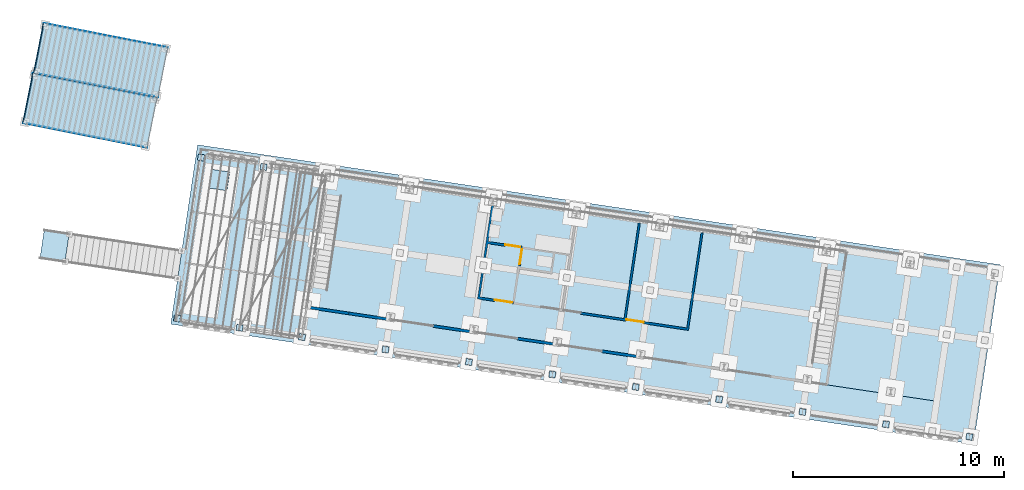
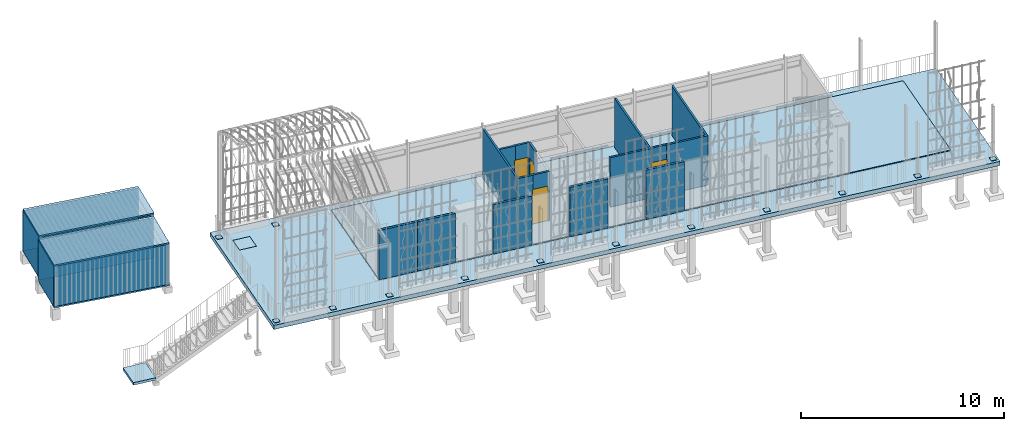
# One storey, part 136 of 143: 20 plates, 8 walls, 7 slabs, 4 doors, 7 openings, 5 elements without a shape of their own.
"""IFC4 building model written with IfcOpenShell, lengths in metres."""

import ifcopenshell
import ifcopenshell.guid

model = None  # the IFC model being written
_history = None  # IfcOwnerHistory: only IFC2X3 demands one
_inside = {}  # id of a spatial element -> (the spatial element, [elements in it])
_under = {}  # id of a project, library or spatial element -> (it, [spatial elements below it])
_declared = {}  # id of a project -> (the project, [libraries it declares])
_typed = {}  # id of a type object -> (the type object, [elements of that type])
_made_of = {}  # id of a material, layer set ... -> (it, [elements and type objects made of it])


def new_model(schema):
    """Start an empty IFC model of exactly this schema.

    Asked for "IFC4X3", IfcOpenShell would pick the latest addendum, in which some entities
    have other attributes; the version numbers below select the first issue.
    IFC2X3 requires an IfcOwnerHistory on every rooted entity: one is made here for all.
    """
    global model, _history
    if schema == "IFC4X3":
        model = ifcopenshell.file(schema_version=(4, 3, 0, 0))
    else:
        model = ifcopenshell.file(schema=schema)
    _inside.clear()
    _under.clear()
    _declared.clear()
    _typed.clear()
    _made_of.clear()
    _history = None
    if model.schema == "IFC2X3":
        org = make("IfcOrganization", Name="unknown")
        user = make(
            "IfcPersonAndOrganization",
            ThePerson=make("IfcPerson", FamilyName="unknown"),
            TheOrganization=org,
        )
        app = make(
            "IfcApplication",
            ApplicationDeveloper=org,
            Version="unknown",
            ApplicationFullName="unknown",
            ApplicationIdentifier="unknown",
        )
        _history = make(
            "IfcOwnerHistory",
            OwningUser=user,
            OwningApplication=app,
            ChangeAction="ADDED",
            CreationDate=0,
        )
    return model


def make(cls, **values):
    """One entity of the class cls with the attributes given. An attribute that is None is left unset."""
    return model.create_entity(
        cls, **{name: value for name, value in values.items() if value is not None}
    )


def rooted(cls, **values):
    """An entity with a GlobalId (a new one), such as an element, a storey or a relation."""
    return make(cls, GlobalId=ifcopenshell.guid.new(), OwnerHistory=_history, **values)


def si_unit(unit_type, name, prefix=None):
    """IfcSIUnit, for example si_unit("LENGTHUNIT", "METRE", prefix="MILLI")."""
    return make("IfcSIUnit", UnitType=unit_type, Prefix=prefix, Name=name)


def assignment(units):
    """IfcUnitAssignment: the units of a project."""
    return None if units is None else make("IfcUnitAssignment", Units=units)


def point(xyz):
    """IfcCartesianPoint."""
    return None if xyz is None else make("IfcCartesianPoint", Coordinates=xyz)


def direction(xyz):
    """IfcDirection."""
    return None if xyz is None else make("IfcDirection", DirectionRatios=xyz)


def frame(location, z_axis=None, x_axis=None):
    """IfcAxis2Placement3D, a coordinate frame: its origin and axes. An axis left out is left unset."""
    return make(
        "IfcAxis2Placement3D",
        Location=point(location),
        Axis=direction(z_axis),
        RefDirection=direction(x_axis),
    )


def origin_with_axes():
    """The frame at (0, 0, 0) with the z axis (0, 0, 1) and the x axis (1, 0, 0) written out."""
    return frame((0.0, 0.0, 0.0), z_axis=(0.0, 0.0, 1.0), x_axis=(1.0, 0.0, 0.0))


def place(relative_to, where):
    """IfcLocalPlacement: puts the frame where relative to a parent placement (None: the world)."""
    return make(
        "IfcLocalPlacement", PlacementRelTo=relative_to, RelativePlacement=where
    )


def context(
    kind, dimensions, precision=None, world=None, true_north=None, identifier=None
):
    """IfcGeometricRepresentationContext, for example the 3D "Model" context."""
    return make(
        "IfcGeometricRepresentationContext",
        ContextIdentifier=identifier,
        ContextType=kind,
        CoordinateSpaceDimension=dimensions,
        Precision=precision,
        WorldCoordinateSystem=world,
        TrueNorth=true_north,
    )


def subcontext(parent, identifier, kind, view, scale=None):
    """IfcGeometricRepresentationSubContext, for example "Body" below "Model"."""
    return make(
        "IfcGeometricRepresentationSubContext",
        ContextIdentifier=identifier,
        ContextType=kind,
        ParentContext=parent,
        TargetScale=scale,
        TargetView=view,
    )


def project(units=None, contexts=None):
    """IfcProject with its units and contexts."""
    return rooted(
        "IfcProject",
        Name="project",
        RepresentationContexts=contexts,
        UnitsInContext=assignment(units),
    )


def spatial(cls, under=None, at=None, **own):
    """A site, building, storey or space (cls), placed at a placement, below another one or the project."""
    s = rooted(cls, ObjectPlacement=at, **own)
    if under is not None:
        _under.setdefault(under.id(), (under, []))[1].append(s)
    return s


def polyline(points):
    """IfcPolyline through the points."""
    return make("IfcPolyline", Points=[point(p) for p in points])


def outline(outer, holes=None, kind="AREA"):
    """IfcArbitraryClosedProfileDef: a profile drawn as a closed curve; with holes, ...WithVoids."""
    if holes is None:
        return make("IfcArbitraryClosedProfileDef", ProfileType=kind, OuterCurve=outer)
    return make(
        "IfcArbitraryProfileDefWithVoids",
        ProfileType=kind,
        OuterCurve=outer,
        InnerCurves=holes,
    )


def extrude(swept, where, along, depth):
    """IfcExtrudedAreaSolid: the profile swept, set in the frame where, extruded along a direction by depth."""
    return make(
        "IfcExtrudedAreaSolid",
        SweptArea=swept,
        Position=where,
        ExtrudedDirection=direction(along),
        Depth=depth,
    )


def shape(context_of_items, identifier, shape_type, items):
    """IfcShapeRepresentation: the items that make up one representation, for example the "Body"."""
    return make(
        "IfcShapeRepresentation",
        ContextOfItems=context_of_items,
        RepresentationIdentifier=identifier,
        RepresentationType=shape_type,
        Items=items,
    )


def material(Name=None, Category=None):
    """IfcMaterial."""
    return make("IfcMaterial", Name=Name, Category=Category)


def layer(
    of_material, thickness, ventilated=None, Name=None, Category=None, Priority=None
):
    """IfcMaterialLayer: one layer of a wall or slab, of a material (None: an air gap)."""
    return make(
        "IfcMaterialLayer",
        Material=of_material,
        LayerThickness=thickness,
        IsVentilated=ventilated,
        Name=Name,
        Category=Category,
        Priority=Priority,
    )


def layer_set(layers, Name=None):
    """IfcMaterialLayerSet."""
    return make("IfcMaterialLayerSet", MaterialLayers=layers, LayerSetName=Name)


def constituent(of_material, Name=None, Category=None, fraction=None):
    """IfcMaterialConstituent: one of the materials an element consists of."""
    return make(
        "IfcMaterialConstituent",
        Name=Name,
        Material=of_material,
        Fraction=fraction,
        Category=Category,
    )


def constituent_set(constituents=None, Name=None):
    """IfcMaterialConstituentSet."""
    return make(
        "IfcMaterialConstituentSet", Name=Name, MaterialConstituents=constituents
    )


def made_of(thing, what):
    """Note that an element or type object is made of a material, layer set ...; save() writes the relation."""
    if what is not None:
        _made_of.setdefault(what.id(), (what, []))[1].append(thing)
    return thing


def element(
    cls,
    number,
    at=None,
    inside=None,
    cuts=None,
    type_object=None,
    material=None,
    context=None,
    identifier="Body",
    shape_type=None,
    held_by="IfcProductDefinitionShape",
    body=None,
    shapes=None,
    **own,
):
    """One element of the class cls, such as IfcWall. Its Tag is "e" and its number.

    at: its placement. inside: the storey or other place that contains it. cuts: it is an
    opening in that element (IfcRelVoidsElement). A single representation is given by context,
    identifier, shape_type and body (its items); several are given by shapes. held_by: the class
    of the entity that holds the representations. save() writes the other relations.
    """
    e = rooted(cls, Tag="e%d" % number, ObjectPlacement=at, **own)
    if body is not None:
        shapes = [shape(context, identifier, shape_type, body)]
    if shapes is not None:
        e.Representation = make(held_by, Representations=shapes)
    if inside is not None:
        _inside.setdefault(inside.id(), (inside, []))[1].append(e)
    if cuts is not None:
        rooted(
            "IfcRelVoidsElement", RelatingBuildingElement=cuts, RelatedOpeningElement=e
        )
    if type_object is not None:
        _typed.setdefault(type_object.id(), (type_object, []))[1].append(e)
    return made_of(e, material)


def fill(opening, filler):
    """IfcRelFillsElement: the door or window that sits in an opening."""
    return rooted(
        "IfcRelFillsElement",
        RelatingOpeningElement=opening,
        RelatedBuildingElement=filler,
    )


def aggregate(whole, parts):
    """IfcRelAggregates: a whole, such as a stair, and the parts it consists of."""
    return rooted("IfcRelAggregates", RelatingObject=whole, RelatedObjects=parts)


def save(model, path):
    """Write the relations noted so far, then the file.

    IfcRelAggregates (storeys below a building ...), IfcRelContainedInSpatialStructure (elements
    in a storey), IfcRelDefinesByType, IfcRelAssociatesMaterial and IfcRelDeclares: one each for
    every whole, place, type object, material and project.
    """
    for whole, parts in _under.values():
        aggregate(whole, parts)
    for where, things in _inside.values():
        rooted(
            "IfcRelContainedInSpatialStructure",
            RelatedElements=things,
            RelatingStructure=where,
        )
    for kind, things in _typed.values():
        rooted("IfcRelDefinesByType", RelatedObjects=things, RelatingType=kind)
    for what, things in _made_of.values():
        rooted("IfcRelAssociatesMaterial", RelatedObjects=things, RelatingMaterial=what)
    for by, libraries in _declared.values():
        rooted("IfcRelDeclares", RelatingContext=by, RelatedDefinitions=libraries)
    model.write(path)


model = new_model("IFC4")

# Units and contexts
model_context = context("Model", 3, precision=1e-05, world=origin_with_axes(), true_north=direction((0.0, 1.0)))
body_context = subcontext(model_context, "Body", "Model", "MODEL_VIEW")
ifc_project = project(units=[si_unit("VOLUMEUNIT", "CUBIC_METRE"), si_unit("LENGTHUNIT", "METRE"), si_unit("AREAUNIT", "SQUARE_METRE")], contexts=[model_context])

# Site, building, storey
site_placement = place(None, origin_with_axes())
site = spatial("IfcSite", under=ifc_project, at=site_placement, Name="Lares · Rua das Mercês · artigo 4771")
building_placement = place(site_placement, frame((15.0, 9.7, 15.8), z_axis=(0.0, 0.0, 1.0), x_axis=(0.989015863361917, -0.147809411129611, 0.0)))
building = spatial("IfcBuilding", under=site, at=building_placement, Name="Casa Sobreposta")
storey_placement = place(building_placement, origin_with_axes())
storey = spatial("IfcBuildingStorey", under=building, at=storey_placement, Name="00 · Habitação e estacionamento", Elevation=15.8)

# Assembly, slabs, opening, plate
assembly_1_placement = place(storey_placement, origin_with_axes())
assembly_1 = element("IfcElementAssembly", 1, at=assembly_1_placement, inside=storey, Name="Pódio · terraço, casa térrea e cisterna", ObjectType="CISTERN_PODIUM", PredefinedType="USERDEFINED")
ifc_material_1 = material(Name="Betão armado / Stahlbeton", Category="concrete")
slab_1_placement = place(assembly_1_placement, frame((0.0, 0.0, -0.25), z_axis=(0.0, 0.0, 1.0), x_axis=(1.0, 0.0, 0.0)))
slab_1 = element("IfcSlab", 2, at=slab_1_placement, material=ifc_material_1, Name="Pódio · laje da casa 250 mm", PredefinedType="FLOOR", context=body_context, shape_type="SweptSolid", body=[
    extrude(outline(polyline([(30.32, 0.0), (30.32, 6.4), (0.0, 6.4), (0.0, 0.0), (30.32, 0.0)])), origin_with_axes(), (0.0, 0.0, 1.0), 0.25),
])
slab_2_placement = place(assembly_1_placement, frame((0.0, 0.0, -0.29), z_axis=(0.0, 0.0, 1.0), x_axis=(1.0, 0.0, 0.0)))
slab_2 = element("IfcSlab", 3, at=slab_2_placement, material=ifc_material_1, Name="Pódio · terraço e faixa de proteção sul", PredefinedType="FLOOR", context=body_context, shape_type="SweptSolid", body=[
    extrude(outline(polyline([(-6.25, -1.75), (-6.25, 6.85), (32.25, 6.85), (32.25, -1.75), (-6.25, -1.75)]), holes=[polyline([(30.32, 6.4), (0.0, 6.4), (0.0, 0.0), (30.32, 0.0), (30.32, 6.4)])]), origin_with_axes(), (0.0, 0.0, 1.0), 0.25),
])
opening_1_placement = place(slab_2_placement, frame((0.0, 0.0, -0.06), z_axis=(0.0, 0.0, 1.0), x_axis=(1.0, 0.0, 0.0)))
element("IfcOpeningElement", 4, at=opening_1_placement, cuts=slab_2, Name="Cisterna · abertura de inspeção", PredefinedType="OPENING", context=body_context, shape_type="SweptSolid", body=[
    extrude(outline(polyline([(-4.55, 4.9), (-4.55, 5.8), (-5.45, 5.8), (-5.45, 4.9), (-4.55, 4.9)])), origin_with_axes(), (0.0, 0.0, 1.0), 0.4),
])
ifc_material_2 = material(Name="Aço galvanizado / Stahl verzinkt", Category="steel")
plate_1_placement = place(assembly_1_placement, frame((0.0, 0.0, -0.085), z_axis=(0.0, 0.0, 1.0), x_axis=(1.0, 0.0, 0.0)))
plate_1 = element("IfcPlate", 5, at=plate_1_placement, material=ifc_material_2, Name="Cisterna · tampa estanque de inspeção", PredefinedType="SHEET", context=body_context, shape_type="SweptSolid", body=[
    extrude(outline(polyline([(-4.55, 4.9), (-4.55, 5.8), (-5.45, 5.8), (-5.45, 4.9), (-4.55, 4.9)])), origin_with_axes(), (0.0, 0.0, 1.0), 0.045),
])
aggregate(assembly_1, [slab_1, slab_2, plate_1])

# Stair, slab
stair_placement = place(storey_placement, origin_with_axes())
stair = element("IfcStair", 6, at=stair_placement, inside=storey, Name="Jardim · escada pela fachada poente", PredefinedType="STRAIGHT_RUN_STAIR")
slab_3_placement = place(stair_placement, frame((0.0, 0.0, -3.35), z_axis=(0.0, 0.0, 1.0), x_axis=(1.0, 0.0, 0.0)))
slab_3 = element("IfcSlab", 7, at=slab_3_placement, material=ifc_material_1, Name="Jardim · patamar poente", PredefinedType="LANDING", context=body_context, shape_type="SweptSolid", body=[
    extrude(outline(polyline([(-11.65, 0.4), (-11.65, 1.8), (-12.85, 1.8), (-12.85, 0.4), (-11.65, 0.4)])), origin_with_axes(), (0.0, 0.0, 1.0), 0.15),
])
aggregate(stair, [slab_3])

# Assembly, plates
assembly_2_placement = place(storey_placement, origin_with_axes())
assembly_2 = element("IfcElementAssembly", 8, at=assembly_2_placement, inside=storey, Name="Pérgola · prolongamento da estufa 6 m", ObjectType="PERGOLA_GREENHOUSE_EXTENSION", PredefinedType="USERDEFINED")
plate_2_placement = place(assembly_2_placement, frame((0.0, 0.0, -0.04), z_axis=(0.0, 0.0, 1.0), x_axis=(1.0, 0.0, 0.0)))
plate_2 = element("IfcPlate", 9, at=plate_2_placement, material=ifc_material_2, Name="Pérgola · chapa de ancoragem", PredefinedType="SHEET", context=body_context, shape_type="SweptSolid", body=[
    extrude(outline(polyline([(-5.85, -1.59), (-5.85, -1.29), (-6.15, -1.29), (-6.15, -1.59), (-5.85, -1.59)])), origin_with_axes(), (0.0, 0.0, 1.0), 0.025),
])
plate_3_placement = place(assembly_2_placement, frame((0.0, 0.0, -0.04), z_axis=(0.0, 0.0, 1.0), x_axis=(1.0, 0.0, 0.0)))
plate_3 = element("IfcPlate", 10, at=plate_3_placement, material=ifc_material_2, Name="Pérgola · chapa de ancoragem", PredefinedType="SHEET", context=body_context, shape_type="SweptSolid", body=[
    extrude(outline(polyline([(-5.85, 6.13), (-5.85, 6.43), (-6.15, 6.43), (-6.15, 6.13), (-5.85, 6.13)])), origin_with_axes(), (0.0, 0.0, 1.0), 0.025),
])
plate_4_placement = place(assembly_2_placement, frame((0.0, 0.0, -0.04), z_axis=(0.0, 0.0, 1.0), x_axis=(1.0, 0.0, 0.0)))
plate_4 = element("IfcPlate", 11, at=plate_4_placement, material=ifc_material_2, Name="Pérgola · chapa de ancoragem", PredefinedType="SHEET", context=body_context, shape_type="SweptSolid", body=[
    extrude(outline(polyline([(-2.85, -1.59), (-2.85, -1.29), (-3.15, -1.29), (-3.15, -1.59), (-2.85, -1.59)])), origin_with_axes(), (0.0, 0.0, 1.0), 0.025),
])
plate_5_placement = place(assembly_2_placement, frame((0.0, 0.0, -0.04), z_axis=(0.0, 0.0, 1.0), x_axis=(1.0, 0.0, 0.0)))
plate_5 = element("IfcPlate", 12, at=plate_5_placement, material=ifc_material_2, Name="Pérgola · chapa de ancoragem", PredefinedType="SHEET", context=body_context, shape_type="SweptSolid", body=[
    extrude(outline(polyline([(-2.85, 6.13), (-2.85, 6.43), (-3.15, 6.43), (-3.15, 6.13), (-2.85, 6.13)])), origin_with_axes(), (0.0, 0.0, 1.0), 0.025),
])
aggregate(assembly_2, [plate_2, plate_3, plate_4, plate_5])

# Plates
plate_6_placement = place(storey_placement, frame((0.0, 0.0, -0.04), z_axis=(0.0, 0.0, 1.0), x_axis=(1.0, 0.0, 0.0)))
element("IfcPlate", 13, at=plate_6_placement, inside=storey, material=ifc_material_2, Name="Projeção estufa · chapa de ancoragem", PredefinedType="SHEET", context=body_context, shape_type="SweptSolid", body=[
    extrude(outline(polyline([(0.15, -1.59), (0.15, -1.29), (-0.15, -1.29), (-0.15, -1.59), (0.15, -1.59)])), origin_with_axes(), (0.0, 0.0, 1.0), 0.025),
])
plate_7_placement = place(storey_placement, frame((0.0, 0.0, -0.04), z_axis=(0.0, 0.0, 1.0), x_axis=(1.0, 0.0, 0.0)))
element("IfcPlate", 14, at=plate_7_placement, inside=storey, material=ifc_material_2, Name="Projeção estufa · chapa de ancoragem", PredefinedType="SHEET", context=body_context, shape_type="SweptSolid", body=[
    extrude(outline(polyline([(4.15, -1.59), (4.15, -1.29), (3.85, -1.29), (3.85, -1.59), (4.15, -1.59)])), origin_with_axes(), (0.0, 0.0, 1.0), 0.025),
])
plate_8_placement = place(storey_placement, frame((0.0, 0.0, -0.04), z_axis=(0.0, 0.0, 1.0), x_axis=(1.0, 0.0, 0.0)))
element("IfcPlate", 15, at=plate_8_placement, inside=storey, material=ifc_material_2, Name="Projeção estufa · chapa de ancoragem", PredefinedType="SHEET", context=body_context, shape_type="SweptSolid", body=[
    extrude(outline(polyline([(8.15, -1.59), (8.15, -1.29), (7.85, -1.29), (7.85, -1.59), (8.15, -1.59)])), origin_with_axes(), (0.0, 0.0, 1.0), 0.025),
])
plate_9_placement = place(storey_placement, frame((0.0, 0.0, -0.04), z_axis=(0.0, 0.0, 1.0), x_axis=(1.0, 0.0, 0.0)))
element("IfcPlate", 16, at=plate_9_placement, inside=storey, material=ifc_material_2, Name="Projeção estufa · chapa de ancoragem", PredefinedType="SHEET", context=body_context, shape_type="SweptSolid", body=[
    extrude(outline(polyline([(12.15, -1.59), (12.15, -1.29), (11.85, -1.29), (11.85, -1.59), (12.15, -1.59)])), origin_with_axes(), (0.0, 0.0, 1.0), 0.025),
])
plate_10_placement = place(storey_placement, frame((0.0, 0.0, -0.04), z_axis=(0.0, 0.0, 1.0), x_axis=(1.0, 0.0, 0.0)))
element("IfcPlate", 17, at=plate_10_placement, inside=storey, material=ifc_material_2, Name="Projeção estufa · chapa de ancoragem", PredefinedType="SHEET", context=body_context, shape_type="SweptSolid", body=[
    extrude(outline(polyline([(16.15, -1.59), (16.15, -1.29), (15.85, -1.29), (15.85, -1.59), (16.15, -1.59)])), origin_with_axes(), (0.0, 0.0, 1.0), 0.025),
])
plate_11_placement = place(storey_placement, frame((0.0, 0.0, -0.04), z_axis=(0.0, 0.0, 1.0), x_axis=(1.0, 0.0, 0.0)))
element("IfcPlate", 18, at=plate_11_placement, inside=storey, material=ifc_material_2, Name="Projeção estufa · chapa de ancoragem", PredefinedType="SHEET", context=body_context, shape_type="SweptSolid", body=[
    extrude(outline(polyline([(20.15, -1.59), (20.15, -1.29), (19.85, -1.29), (19.85, -1.59), (20.15, -1.59)])), origin_with_axes(), (0.0, 0.0, 1.0), 0.025),
])
plate_12_placement = place(storey_placement, frame((0.0, 0.0, -0.04), z_axis=(0.0, 0.0, 1.0), x_axis=(1.0, 0.0, 0.0)))
element("IfcPlate", 19, at=plate_12_placement, inside=storey, material=ifc_material_2, Name="Projeção estufa · chapa de ancoragem", PredefinedType="SHEET", context=body_context, shape_type="SweptSolid", body=[
    extrude(outline(polyline([(24.15, -1.59), (24.15, -1.29), (23.85, -1.29), (23.85, -1.59), (24.15, -1.59)])), origin_with_axes(), (0.0, 0.0, 1.0), 0.025),
])
plate_13_placement = place(storey_placement, frame((0.0, 0.0, -0.04), z_axis=(0.0, 0.0, 1.0), x_axis=(1.0, 0.0, 0.0)))
element("IfcPlate", 20, at=plate_13_placement, inside=storey, material=ifc_material_2, Name="Projeção estufa · chapa de ancoragem", PredefinedType="SHEET", context=body_context, shape_type="SweptSolid", body=[
    extrude(outline(polyline([(28.15, -1.59), (28.15, -1.29), (27.85, -1.29), (27.85, -1.59), (28.15, -1.59)])), origin_with_axes(), (0.0, 0.0, 1.0), 0.025),
])
plate_14_placement = place(storey_placement, frame((0.0, 0.0, -0.04), z_axis=(0.0, 0.0, 1.0), x_axis=(1.0, 0.0, 0.0)))
element("IfcPlate", 21, at=plate_14_placement, inside=storey, material=ifc_material_2, Name="Projeção estufa · chapa de ancoragem", PredefinedType="SHEET", context=body_context, shape_type="SweptSolid", body=[
    extrude(outline(polyline([(32.15, -1.59), (32.15, -1.29), (31.85, -1.29), (31.85, -1.59), (32.15, -1.59)])), origin_with_axes(), (0.0, 0.0, 1.0), 0.025),
])

# Assembly, slabs, plates
assembly_3_placement = place(storey_placement, frame((-14.4335953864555, 9.04888612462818, 0.0), z_axis=(0.0, 0.0, 1.0), x_axis=(0.999032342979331, -0.0439815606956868, 0.0)))
assembly_3 = element("IfcElementAssembly", 22, at=assembly_3_placement, inside=storey, Name="Contentor existente 1 · 6 m", ObjectType="EXISTING_SHIPPING_CONTAINER", PredefinedType="USERDEFINED")
ifc_material_3 = material(Name="Contentor · pintura 1", Category="steel")
slab_4_placement = place(assembly_3_placement, frame((0.0, 0.0, -2.16314181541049), z_axis=(0.0, 0.0, 1.0), x_axis=(1.0, 0.0, 0.0)))
slab_4 = element("IfcSlab", 23, at=slab_4_placement, material=ifc_material_3, Name="Contentor · piso ou teto", PredefinedType="FLOOR", context=body_context, shape_type="SweptSolid", body=[
    extrude(outline(polyline([(6.0, 0.0), (6.0, 2.44), (0.0, 2.44), (0.0, 0.0), (6.0, 0.0)])), origin_with_axes(), (0.0, 0.0, 1.0), 0.08),
])
slab_5_placement = place(assembly_3_placement, frame((0.0, 0.0, 0.346858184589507), z_axis=(0.0, 0.0, 1.0), x_axis=(1.0, 0.0, 0.0)))
slab_5 = element("IfcSlab", 24, at=slab_5_placement, material=ifc_material_3, Name="Contentor · piso ou teto", PredefinedType="FLOOR", context=body_context, shape_type="SweptSolid", body=[
    extrude(outline(polyline([(6.0, 0.0), (6.0, 2.44), (0.0, 2.44), (0.0, 0.0), (6.0, 0.0)])), origin_with_axes(), (0.0, 0.0, 1.0), 0.08),
])
plate_15_placement = place(assembly_3_placement, frame((0.0, 0.0, -2.08314181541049), z_axis=(0.0, 0.0, 1.0), x_axis=(1.0, 0.0, 0.0)))
plate_15 = element("IfcPlate", 25, at=plate_15_placement, material=ifc_material_3, Name="Contentor · chapa lateral", context=body_context, shape_type="SweptSolid", body=[
    extrude(outline(polyline([(6.0, 0.0325), (6.0, 0.0075), (0.0, 0.0075), (0.0, 0.0325), (6.0, 0.0325)])), origin_with_axes(), (0.0, 0.0, 1.0), 2.43),
])
plate_16_placement = place(assembly_3_placement, frame((0.0, 0.0, -2.08314181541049), z_axis=(0.0, 0.0, 1.0), x_axis=(1.0, 0.0, 0.0)))
plate_16 = element("IfcPlate", 26, at=plate_16_placement, material=ifc_material_3, Name="Contentor · chapa lateral", context=body_context, shape_type="SweptSolid", body=[
    extrude(outline(polyline([(6.0, 2.4325), (6.0, 2.4075), (0.0, 2.4075), (0.0, 2.4325), (6.0, 2.4325)])), origin_with_axes(), (0.0, 0.0, 1.0), 2.43),
])
plate_17_placement = place(assembly_3_placement, frame((0.0, 0.0, -2.08314181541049), z_axis=(0.0, 0.0, 1.0), x_axis=(1.0, 0.0, 0.0)))
plate_17 = element("IfcPlate", 27, at=plate_17_placement, material=ifc_material_3, Name="Contentor · chapa de fundo", context=body_context, shape_type="SweptSolid", body=[
    extrude(outline(polyline([(-0.025, 2.44), (0.025, 2.44), (0.025, 0.0), (-0.025, 0.0), (-0.025, 2.44)])), origin_with_axes(), (0.0, 0.0, 1.0), 2.43),
])
aggregate(assembly_3, [slab_4, slab_5, plate_15, plate_16, plate_17])

assembly_4_placement = place(storey_placement, frame((-14.5932944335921, 6.63122214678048, 0.0), z_axis=(0.0, 0.0, 1.0), x_axis=(0.998832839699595, -0.0483007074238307, 0.0)))
assembly_4 = element("IfcElementAssembly", 28, at=assembly_4_placement, inside=storey, Name="Contentor existente 2 · 6 m", ObjectType="EXISTING_SHIPPING_CONTAINER", PredefinedType="USERDEFINED")
ifc_material_4 = material(Name="Contentor · pintura 2", Category="steel")
slab_6_placement = place(assembly_4_placement, frame((0.0, 0.0, -2.31875169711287), z_axis=(0.0, 0.0, 1.0), x_axis=(1.0, 0.0, 0.0)))
slab_6 = element("IfcSlab", 29, at=slab_6_placement, material=ifc_material_4, Name="Contentor · piso ou teto", PredefinedType="FLOOR", context=body_context, shape_type="SweptSolid", body=[
    extrude(outline(polyline([(6.0, 0.0), (6.0, 2.44), (0.0, 2.44), (0.0, 0.0), (6.0, 0.0)])), origin_with_axes(), (0.0, 0.0, 1.0), 0.08),
])
slab_7_placement = place(assembly_4_placement, frame((0.0, 0.0, 0.191248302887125), z_axis=(0.0, 0.0, 1.0), x_axis=(1.0, 0.0, 0.0)))
slab_7 = element("IfcSlab", 30, at=slab_7_placement, material=ifc_material_4, Name="Contentor · piso ou teto", PredefinedType="FLOOR", context=body_context, shape_type="SweptSolid", body=[
    extrude(outline(polyline([(6.0, 0.0), (6.0, 2.44), (0.0, 2.44), (0.0, 0.0), (6.0, 0.0)])), origin_with_axes(), (0.0, 0.0, 1.0), 0.08),
])
plate_18_placement = place(assembly_4_placement, frame((0.0, 0.0, -2.23875169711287), z_axis=(0.0, 0.0, 1.0), x_axis=(1.0, 0.0, 0.0)))
plate_18 = element("IfcPlate", 31, at=plate_18_placement, material=ifc_material_4, Name="Contentor · chapa lateral", context=body_context, shape_type="SweptSolid", body=[
    extrude(outline(polyline([(6.0, 0.0325), (6.0, 0.0075), (0.0, 0.0075), (0.0, 0.0325), (6.0, 0.0325)])), origin_with_axes(), (0.0, 0.0, 1.0), 2.43),
])
plate_19_placement = place(assembly_4_placement, frame((0.0, 0.0, -2.23875169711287), z_axis=(0.0, 0.0, 1.0), x_axis=(1.0, 0.0, 0.0)))
plate_19 = element("IfcPlate", 32, at=plate_19_placement, material=ifc_material_4, Name="Contentor · chapa lateral", context=body_context, shape_type="SweptSolid", body=[
    extrude(outline(polyline([(6.0, 2.4325), (6.0, 2.4075), (0.0, 2.4075), (0.0, 2.4325), (6.0, 2.4325)])), origin_with_axes(), (0.0, 0.0, 1.0), 2.43),
])
plate_20_placement = place(assembly_4_placement, frame((0.0, 0.0, -2.23875169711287), z_axis=(0.0, 0.0, 1.0), x_axis=(1.0, 0.0, 0.0)))
plate_20 = element("IfcPlate", 33, at=plate_20_placement, material=ifc_material_4, Name="Contentor · chapa de fundo", context=body_context, shape_type="SweptSolid", body=[
    extrude(outline(polyline([(-0.025, 2.44), (0.025, 2.44), (0.025, 0.0), (-0.025, 0.0), (-0.025, 2.44)])), origin_with_axes(), (0.0, 0.0, 1.0), 2.43),
])
aggregate(assembly_4, [slab_6, slab_7, plate_18, plate_19, plate_20])

# Wall, openings, doors
ifc_material_5 = material(Name="OSB", Category="wood")
ifc_constituent_1 = constituent(ifc_material_5, Name="osb")
ifc_material_6 = material(Name="Lã mineral / Mineralwolle 2", Category="mineral wool")
ifc_constituent_2 = constituent(ifc_material_6, Name="wool")
ifc_constituent_set_1 = constituent_set(constituents=[ifc_constituent_1, ifc_constituent_2], Name="OSB22 / lã mineral / OSB22")
wall_1_placement = place(storey_placement, origin_with_axes())
wall_1 = element("IfcWall", 34, at=wall_1_placement, inside=storey, material=ifc_constituent_set_1, Name="Divisória 1 · OSB 22 mm nas duas faces", context=body_context, shape_type="SweptSolid", body=[
    extrude(outline(polyline([(8.05999999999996, 6.27299999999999), (8.05999999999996, 4.35299999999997), (8.80454037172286, 4.35299999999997), (8.80454322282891, 4.37255471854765), (9.67462900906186, 4.37242785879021), (9.67461809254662, 4.29755537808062), (9.74955631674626, 4.29756574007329), (9.74967661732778, 3.42754853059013), (9.63967661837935, 3.4275333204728), (9.63956117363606, 4.26243297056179), (8.90999999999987, 4.26253934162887), (8.90999999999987, 4.24299999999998), (8.05999999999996, 4.24299999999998), (8.05999999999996, 1.68999999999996), (8.70456930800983, 1.68999999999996), (8.70457262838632, 1.71008556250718), (9.6746647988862, 1.70992519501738), (9.67464661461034, 1.59992519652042), (8.80999999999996, 1.60006813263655), (8.80999999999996, 1.57999999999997), (7.96000000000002, 1.57999999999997), (7.96000000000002, 6.27299999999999), (8.05999999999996, 6.27299999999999)]), holes=[polyline([(7.98200000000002, 1.60199999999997), (8.78799999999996, 1.60199999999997), (8.78799999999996, 1.62207176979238), (9.65265025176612, 1.62192883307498), (9.65266116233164, 1.68792883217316), (8.72656899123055, 1.68808192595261), (8.72656567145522, 1.66799999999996), (8.03799999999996, 1.66799999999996), (8.03799999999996, 4.26499999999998), (8.88799999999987, 4.26499999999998), (8.88799999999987, 4.28454254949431), (9.65261617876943, 4.28443106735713), (9.65262580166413, 4.35043106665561), (8.8265400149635, 4.35055151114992), (8.82653716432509, 4.33099999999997), (8.03799999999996, 4.33099999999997), (8.03799999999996, 6.25099999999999), (7.98200000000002, 6.25099999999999), (7.98200000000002, 1.60199999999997)]), polyline([(9.66167357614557, 3.44953636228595), (9.72767357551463, 3.44954548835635), (9.72755935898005, 4.27556269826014), (9.661559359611, 4.27555357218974), (9.66167357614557, 3.44953636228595)])]), origin_with_axes(), (0.0, 0.0, 1.0), 2.968),
    extrude(outline(polyline([(7.98200000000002, 6.25099999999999), (8.03799999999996, 6.25099999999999), (8.03799999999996, 4.33099999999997), (8.82653716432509, 4.33099999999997), (8.8265400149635, 4.35055151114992), (9.65262580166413, 4.35043106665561), (9.65261617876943, 4.28443106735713), (8.88799999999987, 4.28454254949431), (8.88799999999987, 4.26499999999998), (8.03799999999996, 4.26499999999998), (8.03799999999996, 1.66799999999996), (8.72656567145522, 1.66799999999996), (8.72656899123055, 1.68808192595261), (9.65266116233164, 1.68792883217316), (9.65265025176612, 1.62192883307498), (8.78799999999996, 1.62207176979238), (8.78799999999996, 1.60199999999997), (7.98200000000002, 1.60199999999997), (7.98200000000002, 6.25099999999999)])), origin_with_axes(), (0.0, 0.0, 1.0), 2.968),
    extrude(outline(polyline([(9.661559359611, 4.27555357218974), (9.72755935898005, 4.27556269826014), (9.72767357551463, 3.44954548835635), (9.66167357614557, 3.44953636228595), (9.661559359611, 4.27555357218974)])), origin_with_axes(), (0.0, 0.0, 1.0), 2.968),
])
opening_2_placement = place(wall_1_placement, origin_with_axes())
opening_2 = element("IfcOpeningElement", 35, at=opening_2_placement, cuts=wall_1, PredefinedType="OPENING", context=body_context, shape_type="SweptSolid", body=[
    extrude(outline(polyline([(8.87451187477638, 4.15754451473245), (8.87455853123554, 4.47754451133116), (9.60464431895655, 4.4774380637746), (9.60459766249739, 4.15743806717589), (8.87451187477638, 4.15754451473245)])), origin_with_axes(), (0.0, 0.0, 1.0), 2.1),
])
opening_3_placement = place(wall_1_placement, origin_with_axes())
opening_3 = element("IfcOpeningElement", 36, at=opening_3_placement, cuts=wall_1, PredefinedType="OPENING", context=body_context, shape_type="SweptSolid", body=[
    extrude(outline(polyline([(8.77453708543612, 1.49507399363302), (8.77458998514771, 1.81507398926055), (9.60468215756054, 1.81493676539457), (9.60462925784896, 1.49493676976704), (8.77453708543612, 1.49507399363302)])), origin_with_axes(), (0.0, 0.0, 1.0), 2.1),
])
opening_4_placement = place(wall_1_placement, origin_with_axes())
opening_4 = element("IfcOpeningElement", 37, at=opening_4_placement, cuts=wall_1, PredefinedType="OPENING", context=body_context, shape_type="SweptSolid", body=[
    extrude(outline(polyline([(9.85466693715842, 3.49756304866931), (9.53466694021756, 3.49751880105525), (9.5345659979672, 4.22753601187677), (9.85456599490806, 4.22758025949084), (9.85466693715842, 3.49756304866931)])), origin_with_axes(), (0.0, 0.0, 1.0), 2.1),
])
door_1_placement = place(storey_placement, origin_with_axes())
door_1 = element("IfcDoor", 38, at=door_1_placement, inside=storey, material=ifc_material_5, Name="Porta interior 3", OperationType="SINGLE_SWING_LEFT", OverallHeight=2.1, OverallWidth=0.730085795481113, PredefinedType="DOOR", context=body_context, shape_type="SweptSolid", body=[
    extrude(outline(polyline([(8.87453265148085, 4.30004451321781), (8.87453775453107, 4.3350445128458), (9.60462354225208, 4.33493806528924), (9.60461843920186, 4.29993806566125), (8.87453265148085, 4.30004451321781)])), origin_with_axes(), (0.0, 0.0, 1.0), 2.1),
])
fill(opening_2, door_1)
door_2_placement = place(storey_placement, origin_with_axes())
door_2 = element("IfcDoor", 39, at=door_2_placement, inside=storey, material=ifc_material_5, Name="Porta interior 4", OperationType="SINGLE_SWING_LEFT", OverallHeight=2.1, OverallWidth=0.830092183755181, PredefinedType="DOOR", context=body_context, shape_type="SweptSolid", body=[
    extrude(outline(polyline([(8.77456064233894, 1.6375739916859), (8.7745664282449, 1.67257399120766), (9.60465860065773, 1.67243676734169), (9.60465281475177, 1.63743676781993), (8.77456064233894, 1.6375739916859)])), origin_with_axes(), (0.0, 0.0, 1.0), 2.1),
])
fill(opening_3, door_2)
door_3_placement = place(storey_placement, origin_with_axes())
door_3 = element("IfcDoor", 40, at=door_3_placement, inside=storey, material=ifc_material_5, Name="Porta interior 6", OperationType="SINGLE_SWING_LEFT", OverallHeight=2.1, OverallWidth=0.730017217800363, PredefinedType="DOOR", context=body_context, shape_type="SweptSolid", body=[
    extrude(outline(polyline([(9.71216693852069, 3.49754334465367), (9.67716693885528, 3.49753850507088), (9.67706599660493, 4.22755571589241), (9.71206599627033, 4.2275605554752), (9.71216693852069, 3.49754334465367)])), origin_with_axes(), (0.0, 0.0, 1.0), 2.1),
])
fill(opening_4, door_3)

# Wall, openings, door
ifc_constituent_3 = constituent(ifc_material_5, Name="osb")
ifc_constituent_4 = constituent(ifc_material_6, Name="wool")
ifc_constituent_set_2 = constituent_set(constituents=[ifc_constituent_3, ifc_constituent_4], Name="OSB22 / lã mineral / OSB22")
wall_2_placement = place(storey_placement, origin_with_axes())
wall_2 = element("IfcWall", 41, at=wall_2_placement, inside=storey, material=ifc_constituent_set_2, Name="Divisória 3 · OSB 22 mm nas duas faces", context=body_context, shape_type="SweptSolid", body=[
    extrude(outline(polyline([(15.07, 6.27299999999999), (15.07, 1.70993390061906), (15.9846265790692, 1.71008560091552), (15.9846448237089, 1.60008560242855), (15.1199999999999, 1.59994219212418), (15.1199999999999, 1.57999999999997), (12.8699999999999, 1.57999999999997), (12.8699999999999, 1.68999999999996), (14.97, 1.68999999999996), (14.97, 6.27299999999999), (15.07, 6.27299999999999)]), holes=[polyline([(14.992, 1.66799999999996), (12.8919999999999, 1.66799999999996), (12.8919999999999, 1.60199999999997), (15.0979999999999, 1.60199999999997), (15.0979999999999, 1.6219385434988), (15.9626411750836, 1.62208195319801), (15.9626302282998, 1.68808195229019), (15.048, 1.68793025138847), (15.048, 6.25099999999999), (14.992, 6.25099999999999), (14.992, 1.66799999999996)])]), origin_with_axes(), (0.0, 0.0, 1.0), 2.968),
    extrude(outline(polyline([(14.992, 6.25099999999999), (15.048, 6.25099999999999), (15.048, 1.68793025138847), (15.9626302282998, 1.68808195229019), (15.9626411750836, 1.62208195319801), (15.0979999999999, 1.6219385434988), (15.0979999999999, 1.60199999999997), (12.8919999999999, 1.60199999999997), (12.8919999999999, 1.66799999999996), (14.992, 1.66799999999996), (14.992, 6.25099999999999)])), origin_with_axes(), (0.0, 0.0, 1.0), 2.968),
])
opening_5_placement = place(wall_2_placement, origin_with_axes())
opening_5 = element("IfcOpeningElement", 42, at=opening_5_placement, cuts=wall_2, PredefinedType="OPENING", context=body_context, shape_type="SweptSolid", body=[
    extrude(outline(polyline([(15.9146091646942, 1.81507398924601), (15.9146622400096, 1.49507399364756), (15.0845696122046, 1.49493631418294), (15.0845165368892, 1.8149363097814), (15.9146091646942, 1.81507398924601)])), origin_with_axes(), (0.0, 0.0, 1.0), 2.1),
])
opening_6_placement = place(wall_2_placement, origin_with_axes())
element("IfcOpeningElement", 43, at=opening_6_placement, cuts=wall_2, PredefinedType="OPENING", context=body_context, shape_type="SweptSolid", body=[
    extrude(outline(polyline([(12.9045964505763, 1.81507398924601), (12.9046495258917, 1.49507399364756), (12.0745568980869, 1.49493631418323), (12.0745038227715, 1.81493630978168), (12.9045964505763, 1.81507398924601)])), origin_with_axes(), (0.0, 0.0, 1.0), 2.1),
])
door_4_placement = place(storey_placement, origin_with_axes())
door_4 = element("IfcDoor", 44, at=door_4_placement, inside=storey, material=ifc_material_5, Name="Porta interior 1", OperationType="SINGLE_SWING_LEFT", OverallHeight=2.1, OverallWidth=0.830092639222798, PredefinedType="DOOR", context=body_context, shape_type="SweptSolid", body=[
    extrude(outline(polyline([(15.9146327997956, 1.67257399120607), (15.9146386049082, 1.63757399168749), (15.0845459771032, 1.63743631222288), (15.0845401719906, 1.67243631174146), (15.9146327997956, 1.67257399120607)])), origin_with_axes(), (0.0, 0.0, 1.0), 2.1),
])
fill(opening_5, door_4)

# Wall, opening
ifc_constituent_5 = constituent(ifc_material_5, Name="osb")
ifc_constituent_6 = constituent(ifc_material_6, Name="wool")
ifc_constituent_set_3 = constituent_set(constituents=[ifc_constituent_5, ifc_constituent_6], Name="OSB22 / lã mineral / OSB22")
wall_3_placement = place(storey_placement, origin_with_axes())
wall_3 = element("IfcWall", 45, at=wall_3_placement, inside=storey, material=ifc_constituent_set_3, Name="Divisória 4 · OSB 22 mm nas duas faces", context=body_context, shape_type="SweptSolid", body=[
    extrude(outline(polyline([(17.98, 6.21236749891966), (18.0799999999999, 6.29570083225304), (18.0799999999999, 1.57999999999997), (15.8799999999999, 1.57999999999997), (15.8799999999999, 1.68999999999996), (17.98, 1.68999999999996), (17.98, 6.21236749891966)]), holes=[polyline([(15.9019999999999, 1.66799999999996), (15.9019999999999, 1.60199999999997), (18.0579999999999, 1.60199999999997), (18.0579999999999, 6.24872991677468), (18.002, 6.202063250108), (18.002, 1.66799999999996), (15.9019999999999, 1.66799999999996)])]), origin_with_axes(), (0.0, 0.0, 1.0), 2.968),
    extrude(outline(polyline([(18.002, 1.66799999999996), (18.002, 6.202063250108), (18.0579999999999, 6.24872991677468), (18.0579999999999, 1.60199999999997), (15.9019999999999, 1.60199999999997), (15.9019999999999, 1.66799999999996), (18.002, 1.66799999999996)])), origin_with_axes(), (0.0, 0.0, 1.0), 2.968),
])
opening_7_placement = place(wall_3_placement, origin_with_axes())
element("IfcOpeningElement", 46, at=opening_7_placement, cuts=wall_3, PredefinedType="OPENING", context=body_context, shape_type="SweptSolid", body=[
    extrude(outline(polyline([(15.9146091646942, 1.81507398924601), (15.9146622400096, 1.49507399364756), (15.0845696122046, 1.49493631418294), (15.0845165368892, 1.8149363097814), (15.9146091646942, 1.81507398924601)])), origin_with_axes(), (0.0, 0.0, 1.0), 2.1),
])

# Walls
ifc_material_7 = material(Name="Aço pintado / Stahl lackiert", Category="steel")
ifc_layer_1 = layer(ifc_material_7, 0.005, Name="steel")
ifc_layer_2 = layer(ifc_material_6, 0.12, Name="wool")
ifc_layer_3 = layer(ifc_material_7, 0.00516, Name="steel")
ifc_layer_set_1 = layer_set([ifc_layer_1, ifc_layer_2, ifc_layer_3], Name="Casa DFL sandwich · 130.16 mm")
wall_4_placement = place(storey_placement, origin_with_axes())
element("IfcWall", 47, at=wall_4_placement, inside=storey, material=ifc_layer_set_1, Name="Painel opaco sul 0", context=body_context, shape_type="SweptSolid", body=[
    extrude(outline(polyline([(2.02133333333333, 0.06508), (2.02133333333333, -0.06508), (0.0, -0.06508), (0.0, 0.06508), (2.02133333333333, 0.06508)])), origin_with_axes(), (0.0, 0.0, 1.0), 2.968),
])
ifc_layer_4 = layer(ifc_material_7, 0.005, Name="steel")
ifc_layer_5 = layer(ifc_material_6, 0.12, Name="wool")
ifc_layer_6 = layer(ifc_material_7, 0.00516, Name="steel")
ifc_layer_set_2 = layer_set([ifc_layer_4, ifc_layer_5, ifc_layer_6], Name="Casa DFL sandwich · 130.16 mm")
wall_5_placement = place(storey_placement, origin_with_axes())
element("IfcWall", 48, at=wall_5_placement, inside=storey, material=ifc_layer_set_2, Name="Painel opaco sul 1", context=body_context, shape_type="SweptSolid", body=[
    extrude(outline(polyline([(4.04266666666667, 0.06508), (4.04266666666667, -0.06508), (2.02133333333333, -0.06508), (2.02133333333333, 0.06508), (4.04266666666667, 0.06508)])), origin_with_axes(), (0.0, 0.0, 1.0), 2.968),
])
ifc_layer_7 = layer(ifc_material_7, 0.005, Name="steel")
ifc_layer_8 = layer(ifc_material_6, 0.12, Name="wool")
ifc_layer_9 = layer(ifc_material_7, 0.00516, Name="steel")
ifc_layer_set_3 = layer_set([ifc_layer_7, ifc_layer_8, ifc_layer_9], Name="Casa DFL sandwich · 130.16 mm")
wall_6_placement = place(storey_placement, origin_with_axes())
element("IfcWall", 49, at=wall_6_placement, inside=storey, material=ifc_layer_set_3, Name="Painel opaco sul 3", context=body_context, shape_type="SweptSolid", body=[
    extrude(outline(polyline([(8.08533333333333, 0.06508), (8.08533333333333, -0.06508), (6.064, -0.06508), (6.064, 0.06508), (8.08533333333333, 0.06508)])), origin_with_axes(), (0.0, 0.0, 1.0), 2.968),
])
ifc_layer_10 = layer(ifc_material_7, 0.005, Name="steel")
ifc_layer_11 = layer(ifc_material_6, 0.12, Name="wool")
ifc_layer_12 = layer(ifc_material_7, 0.00516, Name="steel")
ifc_layer_set_4 = layer_set([ifc_layer_10, ifc_layer_11, ifc_layer_12], Name="Casa DFL sandwich · 130.16 mm")
wall_7_placement = place(storey_placement, origin_with_axes())
element("IfcWall", 50, at=wall_7_placement, inside=storey, material=ifc_layer_set_4, Name="Painel opaco sul 5", context=body_context, shape_type="SweptSolid", body=[
    extrude(outline(polyline([(12.128, 0.06508), (12.128, -0.06508), (10.1066666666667, -0.06508), (10.1066666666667, 0.06508), (12.128, 0.06508)])), origin_with_axes(), (0.0, 0.0, 1.0), 2.968),
])
ifc_layer_13 = layer(ifc_material_7, 0.005, Name="steel")
ifc_layer_14 = layer(ifc_material_6, 0.12, Name="wool")
ifc_layer_15 = layer(ifc_material_7, 0.00516, Name="steel")
ifc_layer_set_5 = layer_set([ifc_layer_13, ifc_layer_14, ifc_layer_15], Name="Casa DFL sandwich · 130.16 mm")
wall_8_placement = place(storey_placement, origin_with_axes())
element("IfcWall", 51, at=wall_8_placement, inside=storey, material=ifc_layer_set_5, Name="Painel opaco sul 7", context=body_context, shape_type="SweptSolid", body=[
    extrude(outline(polyline([(16.1706666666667, 0.06508), (16.1706666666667, -0.06508), (14.1493333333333, -0.06508), (14.1493333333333, 0.06508), (16.1706666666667, 0.06508)])), origin_with_axes(), (0.0, 0.0, 1.0), 2.968),
])

save(model, "model.ifc")
